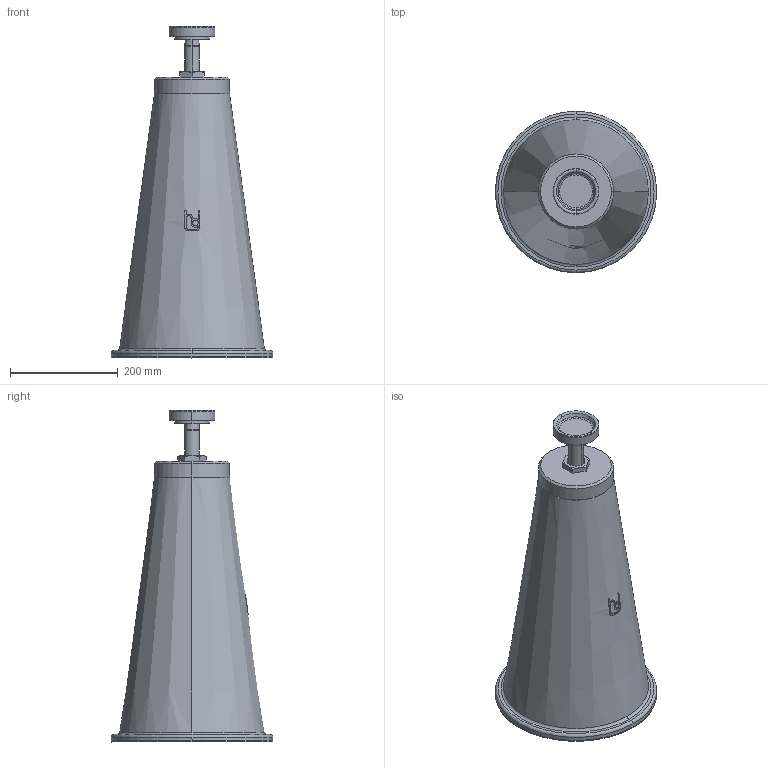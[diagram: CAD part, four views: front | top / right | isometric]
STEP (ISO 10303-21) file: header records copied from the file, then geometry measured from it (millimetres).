
FILE_DESCRIPTION(('STEP AP214'),'1');
FILE_NAME('RSRFC-05-V0.stp','2018-06-27T10:57:05',(' '),(' '),'Spatial InterOp 3D',' ',' ');
FILE_SCHEMA(('automotive_design'));
Length unit declared in the file: millimetre
Products named in the file (6): 1; 2; 3; 4; 5; 6
Bounding box: 300 x 300 x 617.1 mm (x, y, z)
Volume: 17976314.6 mm3; surface area: 656541.8 mm2
Topology: 6 solids, 6 shells, 117 faces, 288 edges, 188 vertices
Faces by surface type: plane 41, cylinder 35, cone 27, torus 14
Entity records: 5121 total; most frequent: CARTESIAN_POINT 1261, DIRECTION 613, ORIENTED_EDGE 576, EDGE_CURVE 288, AXIS2_PLACEMENT_3D 250, VERTEX_POINT 188, EDGE_LOOP 124, STYLED_ITEM 123
